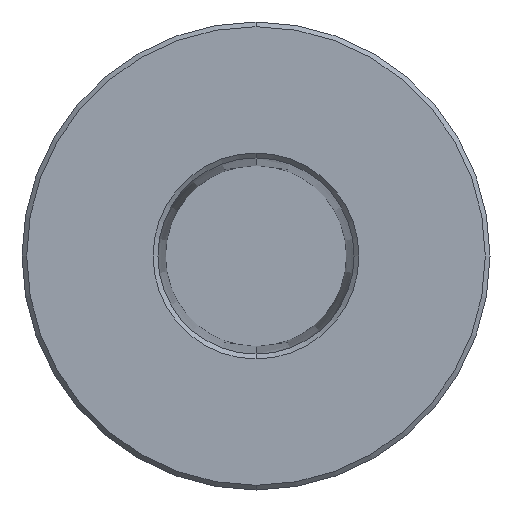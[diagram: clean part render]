
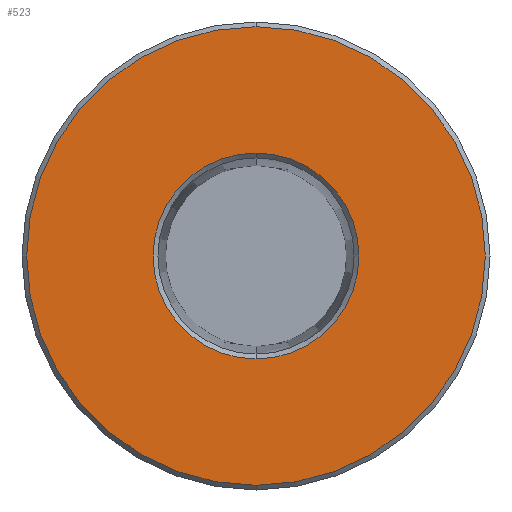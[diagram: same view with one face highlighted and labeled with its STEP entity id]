
A CAD part, front view. The second image highlights one B-rep face of the part: STEP entity #523.
In plain terms, the highlighted planar face has unit normal (0, -1, 0).
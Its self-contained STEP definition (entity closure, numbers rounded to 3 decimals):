
#2 = EDGE_CURVE ( 'NONE', #632, #459, #657, .T. ) ;
#7 = CIRCLE ( 'NONE', #433, 6.6 ) ;
#18 = FACE_BOUND ( 'NONE', #187, .T. ) ;
#41 = CARTESIAN_POINT ( 'NONE',  ( -15., 0., 0. ) ) ;
#43 = VERTEX_POINT ( 'NONE', #502 ) ;
#45 = DIRECTION ( 'NONE',  ( 0., 0., 1. ) ) ;
#47 = PLANE ( 'NONE',  #376 ) ;
#51 = DIRECTION ( 'NONE',  ( 0., 0., 1. ) ) ;
#60 = CARTESIAN_POINT ( 'NONE',  ( 0., 0., 14.7 ) ) ;
#70 = DIRECTION ( 'NONE',  ( 0., 0., 1. ) ) ;
#79 = VERTEX_POINT ( 'NONE', #516 ) ;
#91 = DIRECTION ( 'NONE',  ( 0., 0., 1. ) ) ;
#134 = EDGE_LOOP ( 'NONE', ( #514, #253 ) ) ;
#158 = DIRECTION ( 'NONE',  ( 0., 1., 0. ) ) ;
#161 = CARTESIAN_POINT ( 'NONE',  ( 0., 0., -14.7 ) ) ;
#163 = ORIENTED_EDGE ( 'NONE', *, *, #499, .T. ) ;
#187 = EDGE_LOOP ( 'NONE', ( #163, #710 ) ) ;
#241 = AXIS2_PLACEMENT_3D ( 'NONE', #578, #413, #70 ) ;
#248 = EDGE_CURVE ( 'NONE', #43, #79, #351, .T. ) ;
#253 = ORIENTED_EDGE ( 'NONE', *, *, #527, .T. ) ;
#272 = CARTESIAN_POINT ( 'NONE',  ( 0., 0., 0. ) ) ;
#282 = DIRECTION ( 'NONE',  ( 0., -1., 0. ) ) ;
#289 = CIRCLE ( 'NONE', #297, 14.7 ) ;
#297 = AXIS2_PLACEMENT_3D ( 'NONE', #272, #660, #91 ) ;
#331 = FACE_OUTER_BOUND ( 'NONE', #134, .T. ) ;
#351 = CIRCLE ( 'NONE', #241, 6.6 ) ;
#357 = AXIS2_PLACEMENT_3D ( 'NONE', #612, #282, #51 ) ;
#376 = AXIS2_PLACEMENT_3D ( 'NONE', #41, #487, #45 ) ;
#382 = DIRECTION ( 'NONE',  ( 0., 0., 1. ) ) ;
#413 = DIRECTION ( 'NONE',  ( 0., 1., 0. ) ) ;
#433 = AXIS2_PLACEMENT_3D ( 'NONE', #714, #158, #382 ) ;
#459 = VERTEX_POINT ( 'NONE', #161 ) ;
#487 = DIRECTION ( 'NONE',  ( 0., 1., 0. ) ) ;
#499 = EDGE_CURVE ( 'NONE', #79, #43, #7, .T. ) ;
#502 = CARTESIAN_POINT ( 'NONE',  ( 0., 0., 6.6 ) ) ;
#514 = ORIENTED_EDGE ( 'NONE', *, *, #2, .T. ) ;
#516 = CARTESIAN_POINT ( 'NONE',  ( 0., 0., -6.6 ) ) ;
#523 = ADVANCED_FACE ( 'NONE', ( #331, #18 ), #47, .F. ) ;
#527 = EDGE_CURVE ( 'NONE', #459, #632, #289, .T. ) ;
#578 = CARTESIAN_POINT ( 'NONE',  ( 0., 0., 0. ) ) ;
#612 = CARTESIAN_POINT ( 'NONE',  ( 0., 0., 0. ) ) ;
#632 = VERTEX_POINT ( 'NONE', #60 ) ;
#657 = CIRCLE ( 'NONE', #357, 14.7 ) ;
#660 = DIRECTION ( 'NONE',  ( 0., -1., 0. ) ) ;
#710 = ORIENTED_EDGE ( 'NONE', *, *, #248, .T. ) ;
#714 = CARTESIAN_POINT ( 'NONE',  ( 0., 0., 0. ) ) ;
